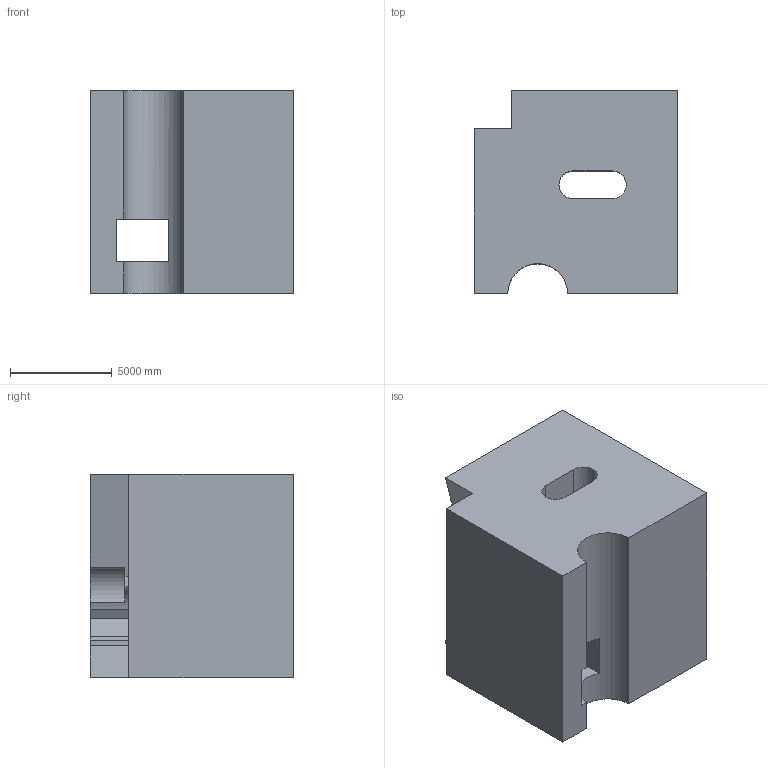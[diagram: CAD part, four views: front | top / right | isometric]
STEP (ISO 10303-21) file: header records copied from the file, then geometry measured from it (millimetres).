
FILE_DESCRIPTION (( 'STEP AP203' ), '1' );
FILE_NAME ('1636.STEP', '2022-08-19T11:14:11', ( 'user' ), ( '' ), 'SwSTEP 2.0', 'SolidWorks 2021', '' );
FILE_SCHEMA (( 'CONFIG_CONTROL_DESIGN' ));
Length unit declared in the file: centimetre
Products named in the file (1): 1636
Bounding box: 10000 x 10000 x 10000 mm (x, y, z)
Volume: 803408005983 mm3; surface area: 763925228.2 mm2
Topology: 1 solids, 1 shells, 36 faces, 114 edges, 76 vertices
Faces by surface type: plane 26, cylinder 10
Entity records: 1468 total; most frequent: CARTESIAN_POINT 363, ORIENTED_EDGE 228, DIRECTION 204, EDGE_CURVE 114, VECTOR 86, LINE 86, VERTEX_POINT 76, AXIS2_PLACEMENT_3D 59
